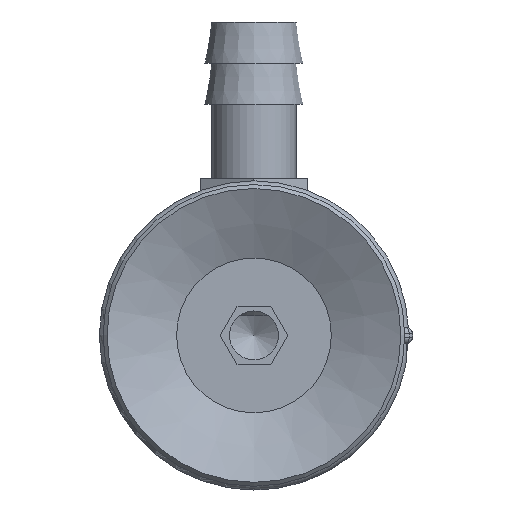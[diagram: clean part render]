
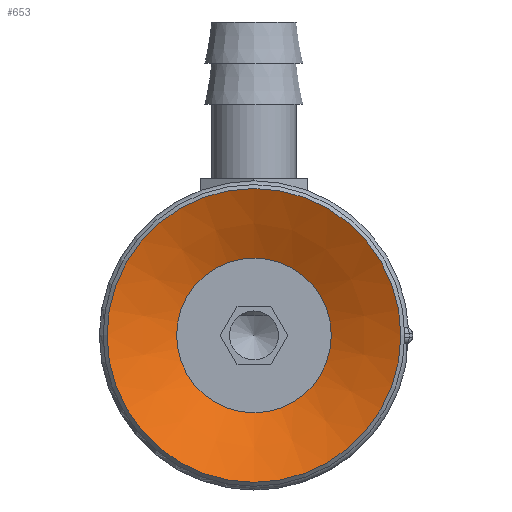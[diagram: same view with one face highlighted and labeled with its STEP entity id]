
A CAD part, front view. The second image highlights one B-rep face of the part: STEP entity #653.
In plain terms, the highlighted conical face has half-angle 64 degrees and reference radius 3.95 mm.
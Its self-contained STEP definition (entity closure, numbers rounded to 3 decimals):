
#653=ADVANCED_FACE('',(#1008,#1009),#1010,.F.);
#1008=FACE_BOUND('',#1502,.T.);
#1009=FACE_OUTER_BOUND('',#1503,.T.);
#1010=CONICAL_SURFACE('',#1504,3.95,1.117);
#1502=EDGE_LOOP('',(#2484));
#1503=EDGE_LOOP('',(#2485));
#1504=AXIS2_PLACEMENT_3D('',#2486,#2487,#2488);
#2484=ORIENTED_EDGE('',*,*,#2857,.F.);
#2485=ORIENTED_EDGE('',*,*,#2853,.T.);
#2486=CARTESIAN_POINT('',(0.0,-29.404,-47.168));
#2487=DIRECTION('',(-0.0,0.,1.0));
#2488=DIRECTION('',(0.0,-1.0,0.));
#2853=EDGE_CURVE('',#3319,#3319,#3320,.T.);
#2857=EDGE_CURVE('',#3327,#3327,#3328,.T.);
#3319=VERTEX_POINT('',#4445);
#3320=CIRCLE('',#4446,7.5);
#3327=VERTEX_POINT('',#4453);
#3328=CIRCLE('',#4454,3.95);
#4445=CARTESIAN_POINT('',(0.0,-36.904,-45.437));
#4446=AXIS2_PLACEMENT_3D('',#4918,#4919,#4920);
#4453=CARTESIAN_POINT('',(0.0,-33.354,-47.168));
#4454=AXIS2_PLACEMENT_3D('',#4930,#4931,#4932);
#4918=CARTESIAN_POINT('',(0.0,-29.404,-45.437));
#4919=DIRECTION('',(0.0,0.,1.0));
#4920=DIRECTION('',(0.0,-1.0,0.));
#4930=CARTESIAN_POINT('',(0.0,-29.404,-47.168));
#4931=DIRECTION('',(0.0,0.,1.0));
#4932=DIRECTION('',(0.0,-1.0,0.));
